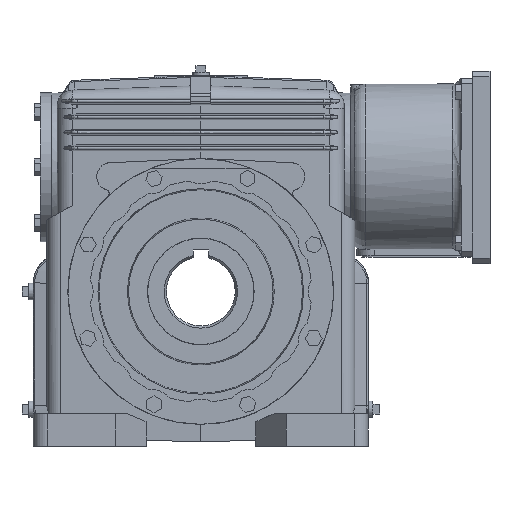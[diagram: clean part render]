
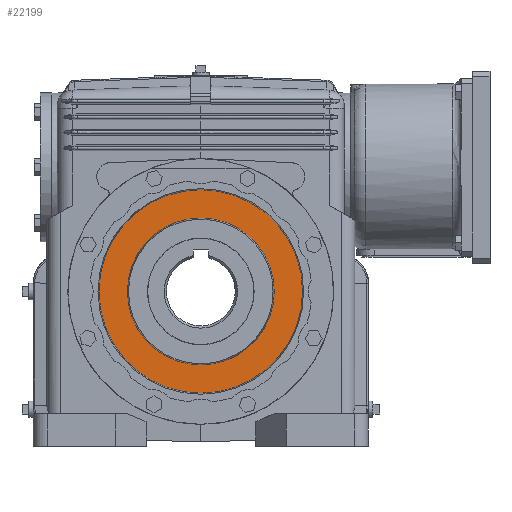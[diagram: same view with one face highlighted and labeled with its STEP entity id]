
A CAD part, front view. The second image highlights one B-rep face of the part: STEP entity #22199.
In plain terms, the highlighted planar face has unit normal (0, -1, 0) as drawn and (1, 0, 0) by its records, which use the part's own axes.
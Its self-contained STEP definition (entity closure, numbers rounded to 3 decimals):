
#9743=ORIENTED_EDGE('',*,*,#13974,.F.);
#9744=ORIENTED_EDGE('',*,*,#13973,.T.);
#13973=EDGE_CURVE('',#16324,#16324,#17260,.T.);
#13974=EDGE_CURVE('',#16325,#16325,#17261,.T.);
#16324=VERTEX_POINT('',#59225);
#16325=VERTEX_POINT('',#59228);
#17260=CIRCLE('',#26275,120.21);
#17261=CIRCLE('',#26277,166.662);
#18444=EDGE_LOOP('',(#9743));
#18445=EDGE_LOOP('',(#9744));
#19984=FACE_BOUND('',#18444,.T.);
#19985=FACE_BOUND('',#18445,.T.);
#20969=PLANE('',#26276);
#22199=ADVANCED_FACE('',(#19984,#19985),#20969,.F.);
#26275=AXIS2_PLACEMENT_3D('',#59224,#30206,#30207);
#26276=AXIS2_PLACEMENT_3D('',#59226,#30208,#30209);
#26277=AXIS2_PLACEMENT_3D('',#59227,#30210,#30211);
#30206=DIRECTION('',(-1.,0.,0.));
#30207=DIRECTION('',(0.,0.,1.));
#30208=DIRECTION('',(-1.,0.,0.));
#30209=DIRECTION('',(0.,0.,1.));
#30210=DIRECTION('',(-1.,0.,0.));
#30211=DIRECTION('',(0.,0.,1.));
#59224=CARTESIAN_POINT('',(18.796,0.,0.));
#59225=CARTESIAN_POINT('',(18.796,0.,120.21));
#59226=CARTESIAN_POINT('',(18.796,0.,166.662));
#59227=CARTESIAN_POINT('',(18.796,0.,0.));
#59228=CARTESIAN_POINT('',(18.796,0.,166.662));
